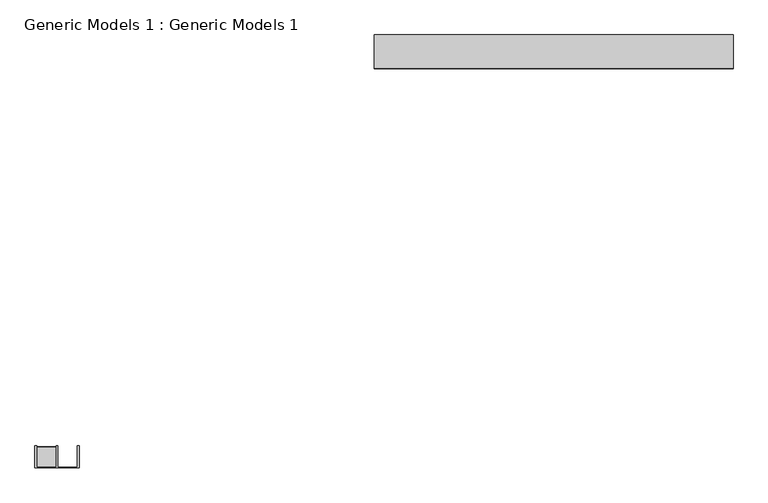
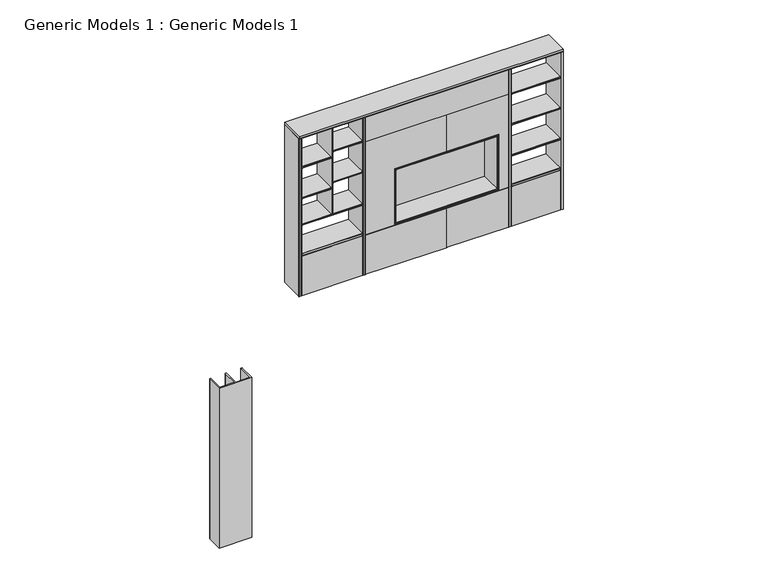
"""IFC4 building model written with IfcOpenShell, lengths in millimetres: proxy geometry, Generic Models 1 : Generic Models 1."""

from ifc_helpers import new_model, si_unit, point, frame, frame_2d, origin, origin_with_axes, place, context, project, spatial, polyline, circle_curve, ellipse_curve, trimmed, segment, composite_curve, outline, extrude, faceted_brep, source, transform, mapped, element, save
from ifc_brep_helpers import plane_surface, cylinder_surface, advanced_brep


def generic_models_1_generic_models_1_d486a0f3(model_context):
    return source(origin(), model_context, "Body", "SolidModel", [
        extrude(outline(composite_curve([segment(trimmed(circle_curve(frame_2d((-3112.6595241, 496.104945)), 2.0), [point((-3112.6595241, 498.104945))], [point((-3110.6595241, 496.104945))], False, "CARTESIAN"), True, "CONTINUOUS"), segment(polyline([(-3110.6595241, 496.104945), (-3110.6595241, 480.104945)]), True, "CONTINUOUS"), segment(trimmed(circle_curve(frame_2d((-3112.6595241, 480.104945)), 2.0), [point((-3110.6595241, 480.104945))], [point((-3112.6595241, 478.104945))], False, "CARTESIAN"), True, "CONTINUOUS"), segment(polyline([(-3112.6595241, 478.104945), (-3175.6595241, 478.104945), (-3175.6595241, 491.104945), (-3260.0144586, 491.104945), (-3260.0144586, 478.104945), (-3340.6595241, 478.104945), (-3340.6595241, 498.104945), (-3112.6595241, 498.104945)]), True, "CONTINUOUS")], self_intersect=False)), frame((-7901.4531836, 0.0, 0.0), z_axis=(1.0, 0.0, 0.0), x_axis=(0.0, 1.0, 0.0)), (0.0, 0.0, 1.0), 220.0053372),
        extrude(outline(polyline([(-7901.4531836, -3260.0144586), (-7901.4531836, -3175.6595241), (-7681.4478465, -3175.6595241), (-7681.4478465, -3260.0144586), (-7901.4531836, -3260.0144586)])), frame((0.0, 0.0, 1144.604945), z_axis=(0.0, 0.0, 1.0), x_axis=(1.0, 0.0, 0.0)), (0.0, 0.0, 1.0), 6.5),
        extrude(outline(composite_curve([segment(trimmed(circle_curve(frame_2d((-3112.6595241, 1156.104945)), 2.0), [point((-3112.6595241, 1158.104945))], [point((-3110.6595241, 1156.104945))], False, "CARTESIAN"), True, "CONTINUOUS"), segment(polyline([(-3110.6595241, 1156.104945), (-3110.6595241, 1140.104945)]), True, "CONTINUOUS"), segment(trimmed(circle_curve(frame_2d((-3112.6595241, 1140.104945)), 2.0), [point((-3110.6595241, 1140.104945))], [point((-3112.6595241, 1138.104945))], False, "CARTESIAN"), True, "CONTINUOUS"), segment(polyline([(-3112.6595241, 1138.104945), (-3175.6595241, 1138.104945), (-3175.6595241, 1151.104945), (-3260.0144586, 1151.104945), (-3260.0144586, 1138.104945), (-3340.6595241, 1138.104945), (-3340.6595241, 1158.104945), (-3112.6595241, 1158.104945)]), True, "CONTINUOUS")], self_intersect=False)), frame((-7901.4531836, 0.0, 0.0), z_axis=(1.0, 0.0, 0.0), x_axis=(0.0, 1.0, 0.0)), (0.0, 0.0, 1.0), 220.0053372),
        extrude(outline(polyline([(-7901.4531836, -3260.0144586), (-7901.4531836, -3175.6595241), (-7681.4478465, -3175.6595241), (-7681.4478465, -3260.0144586), (-7901.4531836, -3260.0144586)])), frame((0.0, 0.0, 1864.604945), z_axis=(0.0, 0.0, 1.0), x_axis=(1.0, 0.0, 0.0)), (0.0, 0.0, 1.0), 6.5),
        extrude(outline(composite_curve([segment(trimmed(circle_curve(frame_2d((-3112.6595241, 1876.104945)), 2.0), [point((-3112.6595241, 1878.104945))], [point((-3110.6595241, 1876.104945))], False, "CARTESIAN"), True, "CONTINUOUS"), segment(polyline([(-3110.6595241, 1876.104945), (-3110.6595241, 1860.104945)]), True, "CONTINUOUS"), segment(trimmed(circle_curve(frame_2d((-3112.6595241, 1860.104945)), 2.0), [point((-3110.6595241, 1860.104945))], [point((-3112.6595241, 1858.104945))], False, "CARTESIAN"), True, "CONTINUOUS"), segment(polyline([(-3112.6595241, 1858.104945), (-3175.6595241, 1858.104945), (-3175.6595241, 1871.104945), (-3260.0144586, 1871.104945), (-3260.0144586, 1858.104945), (-3340.6595241, 1858.104945), (-3340.6595241, 1878.104945), (-3112.6595241, 1878.104945)]), True, "CONTINUOUS")], self_intersect=False)), frame((-7901.4531836, 0.0, 0.0), z_axis=(1.0, 0.0, 0.0), x_axis=(0.0, 1.0, 0.0)), (0.0, 0.0, 1.0), 220.0053372),
        extrude(outline(composite_curve([segment(polyline([(-7439.463858, -3100.6595241), (-7423.4531836, -3100.6595241)]), True, "CONTINUOUS"), segment(trimmed(circle_curve(frame_2d((-7423.4531836, -3102.6595241)), 2.0), [point((-7423.4531836, -3100.6595241))], [point((-7421.4531836, -3102.6595241))], False, "CARTESIAN"), True, "CONTINUOUS"), segment(polyline([(-7421.4531836, -3102.6595241), (-7421.4531836, -3350.6595241), (-7921.4531836, -3350.6595241), (-7921.4531836, -3102.6488498)]), True, "CONTINUOUS"), segment(trimmed(circle_curve(frame_2d((-7919.463858, -3102.6488498)), 1.9893257), [point((-7921.4531836, -3102.6488498))], [point((-7919.463858, -3100.6595241))], False, "CARTESIAN"), True, "CONTINUOUS"), segment(polyline([(-7919.463858, -3100.6595241), (-7903.4531836, -3100.6595241)]), True, "CONTINUOUS"), segment(trimmed(circle_curve(frame_2d((-7903.4531836, -3102.6595241)), 2.0), [point((-7903.4531836, -3100.6595241))], [point((-7901.4531836, -3102.6595241))], False, "CARTESIAN"), True, "CONTINUOUS"), segment(polyline([(-7901.4531836, -3102.6595241), (-7901.4531836, -3340.6595241), (-7681.4478465, -3340.6595241), (-7681.4478465, -3102.6488498)]), True, "CONTINUOUS"), segment(trimmed(circle_curve(frame_2d((-7679.4585208, -3102.6488498)), 1.9893257), [point((-7681.4478465, -3102.6488498))], [point((-7679.4585208, -3100.6595241))], False, "CARTESIAN"), True, "CONTINUOUS"), segment(polyline([(-7679.4585208, -3100.6595241), (-7663.4478465, -3100.6595241)]), True, "CONTINUOUS"), segment(trimmed(circle_curve(frame_2d((-7663.4478465, -3102.6595241)), 2.0), [point((-7663.4478465, -3100.6595241))], [point((-7661.4478465, -3102.6595241))], False, "CARTESIAN"), True, "CONTINUOUS"), segment(polyline([(-7661.4478465, -3102.6595241), (-7661.4478465, -3340.6595241), (-7441.4531836, -3340.6595241), (-7441.4531836, -3102.6488498)]), True, "CONTINUOUS"), segment(trimmed(circle_curve(frame_2d((-7439.463858, -3102.6488498)), 1.9893257), [point((-7441.4531836, -3102.6488498))], [point((-7439.463858, -3100.6595241))], False, "CARTESIAN"), True, "CONTINUOUS")], self_intersect=False)), origin_with_axes(), (0.0, 0.0, 1.0), 2600.0),
        advanced_brep(
        [(-1013.4531836, 1169.3404759, 1558.0), (-1011.4531836, 1171.3404759, 1560.0), (-2611.4531836, 1171.3404759, 1560.0), (-2609.4531836, 1169.3404759, 1558.0), (-1031.4531836, 1171.3404759, 1540.0), (-1029.4531836, 1169.3404759, 1542.0), (-2593.4531836, 1169.3404759, 1542.0), (-2591.4531836, 1171.3404759, 1540.0), (-1031.4531836, 1512.3453695, 1540.0), (-2591.4531836, 1512.3453695, 1540.0), (-1011.4531836, 1512.3453695, 1560.0), (-2611.4531836, 1512.3453695, 1560.0), (-2611.4531836, 1171.3404759, 660.0), (-2609.4531836, 1169.3404759, 662.0), (-2593.4531836, 1169.3404759, 678.0), (-2591.4531836, 1171.3404759, 680.0), (-2591.4531836, 1512.3453695, 680.0), (-2611.4531836, 1512.3453695, 660.0), (-1011.4531836, 1171.3404759, 660.0), (-1013.4531836, 1169.3404759, 662.0), (-1029.4531836, 1169.3404759, 678.0), (-1031.4531836, 1171.3404759, 680.0), (-1031.4531836, 1512.3453695, 680.0), (-1011.4531836, 1512.3453695, 660.0)],
        [
            (0, 1, ellipse_curve(frame((-1013.4531836, 1171.3404759, 1558.0), z_axis=(-0.7071067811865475, 0.0, 0.7071067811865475), x_axis=(0.7071067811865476, 0.0, 0.7071067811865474)), 2.8284271, 2.0)),
            (1, 2),
            (2, 3, ellipse_curve(frame((-2609.4531836, 1171.3404759, 1558.0), z_axis=(0.7071067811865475, 0.0, 0.7071067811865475), x_axis=(0.7071067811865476, 0.0, -0.7071067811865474)), 2.8284271, 2.0)),
            (3, 0),
            (4, 5, ellipse_curve(frame((-1029.4531836, 1171.3404759, 1542.0), z_axis=(-0.7071067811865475, 0.0, 0.7071067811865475), x_axis=(0.7071067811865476, 0.0, 0.7071067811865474)), 2.8284271, 2.0)),
            (5, 6),
            (6, 7, ellipse_curve(frame((-2593.4531836, 1171.3404759, 1542.0), z_axis=(0.7071067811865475, 0.0, 0.7071067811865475), x_axis=(0.7071067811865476, 0.0, -0.7071067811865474)), 2.8284271, 2.0)),
            (7, 4),
            (8, 4),
            (7, 9),
            (9, 8),
            (1, 10),
            (10, 11),
            (11, 2),
            (2, 12),
            (12, 13, ellipse_curve(frame((-2609.4531836, 1171.3404759, 662.0), z_axis=(-0.7071067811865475, 0.0, 0.7071067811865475), x_axis=(0.7071067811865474, 0.0, 0.7071067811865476)), 2.8284271, 2.0)),
            (13, 3),
            (6, 14),
            (14, 15, ellipse_curve(frame((-2593.4531836, 1171.3404759, 678.0), z_axis=(-0.7071067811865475, 0.0, 0.7071067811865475), x_axis=(0.7071067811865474, 0.0, 0.7071067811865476)), 2.8284271, 2.0)),
            (15, 7),
            (15, 16),
            (16, 9),
            (11, 17),
            (17, 12),
            (12, 18),
            (18, 19, ellipse_curve(frame((-1013.4531836, 1171.3404759, 662.0), z_axis=(-0.7071067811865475, 0.0, -0.7071067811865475), x_axis=(-0.7071067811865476, 0.0, 0.7071067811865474)), 2.8284271, 2.0)),
            (19, 13),
            (14, 20),
            (20, 21, ellipse_curve(frame((-1029.4531836, 1171.3404759, 678.0), z_axis=(-0.7071067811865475, 0.0, -0.7071067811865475), x_axis=(-0.7071067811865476, 0.0, 0.7071067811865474)), 2.8284271, 2.0)),
            (21, 15),
            (21, 22),
            (22, 16),
            (17, 23),
            (23, 18),
            (18, 1),
            (0, 19),
            (5, 20),
            (4, 21),
            (8, 22),
            (10, 23),
        ],
        [
            cylinder_surface(frame((-1011.4531836, 1171.3404759, 1558.0), z_axis=(1.0, 0.0, 0.0), x_axis=(0.0, 1.0, 0.0)), 2.0),
            cylinder_surface(frame((-1011.4531836, 1171.3404759, 1542.0), z_axis=(1.0, 0.0, 0.0), x_axis=(0.0, 1.0, 0.0)), 2.0),
            plane_surface(frame((-1031.4531836, 1171.3404759, 1540.0), z_axis=(0.0, 0.0, -1.0), x_axis=(-1.0, 0.0, 0.0))),
            plane_surface(frame((-1011.4531836, 1512.3453695, 1560.0), z_axis=(0.0, 0.0, 1.0), x_axis=(-1.0, 0.0, 0.0))),
            cylinder_surface(frame((-2609.4531836, 1171.3404759, 1560.0), z_axis=(0.0, 0.0, 1.0), x_axis=(0.0, 1.0, 0.0)), 2.0),
            cylinder_surface(frame((-2593.4531836, 1171.3404759, 1560.0), z_axis=(0.0, 0.0, 1.0), x_axis=(0.0, 1.0, 0.0)), 2.0),
            plane_surface(frame((-2591.4531836, 1171.3404759, 1540.0), z_axis=(1.0, 0.0, 0.0), x_axis=(0.0, 0.0, -1.0))),
            plane_surface(frame((-2611.4531836, 1512.3453695, 1560.0), z_axis=(-1.0, 0.0, 0.0), x_axis=(0.0, 0.0, -1.0))),
            cylinder_surface(frame((-2611.4531836, 1171.3404759, 662.0), z_axis=(-1.0, 0.0, 0.0), x_axis=(0.0, 1.0, 0.0)), 2.0),
            cylinder_surface(frame((-2611.4531836, 1171.3404759, 678.0), z_axis=(-1.0, 0.0, 0.0), x_axis=(0.0, 1.0, 0.0)), 2.0),
            plane_surface(frame((-2591.4531836, 1171.3404759, 680.0), z_axis=(0.0, 0.0, 1.0), x_axis=(1.0, 0.0, 0.0))),
            plane_surface(frame((-2611.4531836, 1512.3453695, 660.0), z_axis=(0.0, 0.0, -1.0), x_axis=(1.0, 0.0, 0.0))),
            cylinder_surface(frame((-1013.4531836, 1171.3404759, 660.0), z_axis=(0.0, 0.0, -1.0), x_axis=(0.0, 1.0, 0.0)), 2.0),
            plane_surface(frame((-1013.4531836, 1169.3404759, 662.0), z_axis=(0.0, -1.0, 0.0), x_axis=(0.0, 0.0, 1.0))),
            cylinder_surface(frame((-1029.4531836, 1171.3404759, 660.0), z_axis=(0.0, 0.0, -1.0), x_axis=(0.0, 1.0, 0.0)), 2.0),
            plane_surface(frame((-1031.4531836, 1171.3404759, 680.0), z_axis=(-1.0, 0.0, 0.0), x_axis=(0.0, 0.0, 1.0))),
            plane_surface(frame((-1031.4531836, 1512.3453695, 680.0), z_axis=(0.0, 1.0, 0.0), x_axis=(0.0, 0.0, 1.0))),
            plane_surface(frame((-1011.4531836, 1512.3453695, 660.0), z_axis=(1.0, 0.0, 0.0), x_axis=(0.0, 0.0, 1.0))),
        ],
        [
            (0, [[1, 2, 3, 4]]),
            (1, [[5, 6, 7, 8]]),
            (2, [[9, -8, 10, 11]]),
            (3, [[12, 13, 14, -2]]),
            (4, [[-3, 15, 16, 17]]),
            (5, [[-7, 18, 19, 20]]),
            (6, [[-10, -20, 21, 22]]),
            (7, [[-14, 23, 24, -15]]),
            (8, [[-16, 25, 26, 27]]),
            (9, [[-19, 28, 29, 30]]),
            (10, [[-21, -30, 31, 32]]),
            (11, [[-24, 33, 34, -25]]),
            (12, [[-26, 35, -1, 36]]),
            (13, [[-17, -27, -36, -4], [37, -28, -18, -6]]),
            (14, [[-29, -37, -5, 38]]),
            (15, [[-31, -38, -9, 39]]),
            (16, [[40, -33, -23, -13], [-22, -32, -39, -11]]),
            (17, [[-34, -40, -12, -35]]),
        ],
    ),
        advanced_brep(
        [(-4041.4531836, 1549.3404759, 2560.0), (-4081.4531836, 1549.3404759, 2560.0), (-4081.4531836, 1173.3404759, 2560.0), (-4077.4531836, 1169.3404759, 2560.0), (-4045.4531836, 1169.3404759, 2560.0), (-4041.4531836, 1173.3404759, 2560.0), (-4041.4531836, 1549.3404759, 0.0), (-4041.4531836, 1173.3404759, 0.0), (-4045.4531836, 1169.3404759, 0.0), (-4077.4531836, 1169.3404759, 0.0), (-4081.4531836, 1173.3404759, 0.0), (-4081.4531836, 1549.3404759, 0.0)],
        [
            (0, 1),
            (1, 2),
            (2, 3, circle_curve(frame((-4077.4531836, 1173.3404759, 2560.0), z_axis=(0.0, 0.0, 1.0), x_axis=(1.0, 0.0, 0.0)), 4.0)),
            (3, 4),
            (4, 5, circle_curve(frame((-4045.4531836, 1173.3404759, 2560.0), z_axis=(0.0, 0.0, 1.0), x_axis=(1.0, 0.0, 0.0)), 4.0)),
            (5, 0),
            (6, 7),
            (7, 8, circle_curve(frame((-4045.4531836, 1173.3404759, 0.0), z_axis=(0.0, 0.0, -1.0), x_axis=(1.0, 0.0, 0.0)), 4.0)),
            (8, 9),
            (9, 10, circle_curve(frame((-4077.4531836, 1173.3404759, 0.0), z_axis=(0.0, 0.0, -1.0), x_axis=(1.0, 0.0, 0.0)), 4.0)),
            (10, 11),
            (11, 6),
            (0, 6),
            (11, 1),
            (10, 2),
            (9, 3),
            (8, 4),
            (7, 5),
        ],
        [
            plane_surface(frame((-4081.4531836, 1549.3404759, 2560.0), z_axis=(0.0, 0.0, 1.0), x_axis=(-1.0, 0.0, 0.0))),
            plane_surface(frame((-4081.4531836, 1549.3404759, 0.0), z_axis=(0.0, 0.0, -1.0), x_axis=(1.0, 0.0, 0.0))),
            plane_surface(frame((-4041.4531836, 1549.3404759, 2560.0), z_axis=(0.0, 1.0, 0.0), x_axis=(0.0, 0.0, -1.0))),
            plane_surface(frame((-4081.4531836, 1549.3404759, 2560.0), z_axis=(-1.0, 0.0, 0.0), x_axis=(0.0, 0.0, -1.0))),
            cylinder_surface(frame((-4077.4531836, 1173.3404759, 0.0), z_axis=(0.0, 0.0, 1.0), x_axis=(1.0, 0.0, 0.0)), 4.0),
            plane_surface(frame((-4077.4531836, 1169.3404759, 2560.0), z_axis=(0.0, -1.0, 0.0), x_axis=(0.0, 0.0, -1.0))),
            cylinder_surface(frame((-4045.4531836, 1173.3404759, 0.0), z_axis=(0.0, 0.0, 1.0), x_axis=(1.0, 0.0, 0.0)), 4.0),
            plane_surface(frame((-4041.4531836, 1173.3404759, 2560.0), z_axis=(1.0, 0.0, 0.0), x_axis=(0.0, 0.0, -1.0))),
        ],
        [
            (0, [[1, 2, 3, 4, 5, 6]]),
            (1, [[7, 8, 9, 10, 11, 12]]),
            (2, [[-1, 13, -12, 14]]),
            (3, [[-2, -14, -11, 15]]),
            (4, [[-3, -15, -10, 16]]),
            (5, [[-4, -16, -9, 17]]),
            (6, [[-5, -17, -8, 18]]),
            (7, [[-6, -18, -7, -13]]),
        ],
    ),
        advanced_brep(
        [(-861.4531836, 1549.3404759, 2560.0), (-861.4531836, 1173.3404759, 2560.0), (-857.4531836, 1169.3404759, 2560.0), (-825.4531836, 1169.3404759, 2560.0), (-821.4531836, 1173.3404759, 2560.0), (-821.4531836, 1549.3404759, 2560.0), (-861.4531836, 1549.3404759, 0.0), (-821.4531836, 1549.3404759, 0.0), (-821.4531836, 1173.3404759, 0.0), (-825.4531836, 1169.3404759, 0.0), (-857.4531836, 1169.3404759, 0.0), (-861.4531836, 1173.3404759, 0.0), (-861.4531836, 1173.3404759, 639.6205173), (-861.4531836, 1173.3404759, 644.6205173), (-861.4531836, 1173.3404759, 2155.0), (-861.4531836, 1173.3404759, 2160.0)],
        [
            (0, 1),
            (1, 2, circle_curve(frame((-857.4531836, 1173.3404759, 2560.0), z_axis=(0.0, 0.0, 1.0), x_axis=(1.0, 0.0, 0.0)), 4.0)),
            (2, 3),
            (3, 4, circle_curve(frame((-825.4531836, 1173.3404759, 2560.0), z_axis=(0.0, 0.0, 1.0), x_axis=(1.0, 0.0, 0.0)), 4.0)),
            (4, 5),
            (5, 0),
            (6, 7),
            (7, 8),
            (8, 9, circle_curve(frame((-825.4531836, 1173.3404759, 0.0), z_axis=(0.0, 0.0, -1.0), x_axis=(1.0, 0.0, 0.0)), 4.0)),
            (9, 10),
            (10, 11, circle_curve(frame((-857.4531836, 1173.3404759, 0.0), z_axis=(0.0, 0.0, -1.0), x_axis=(1.0, 0.0, 0.0)), 4.0)),
            (11, 6),
            (0, 6),
            (11, 12),
            (12, 13),
            (13, 14),
            (14, 15),
            (15, 1),
            (10, 2),
            (9, 3),
            (8, 4),
            (7, 5),
        ],
        [
            plane_surface(frame((-4081.4531836, 1549.3404759, 2560.0), z_axis=(0.0, 0.0, 1.0), x_axis=(-1.0, 0.0, 0.0))),
            plane_surface(frame((-4081.4531836, 1549.3404759, 0.0), z_axis=(0.0, 0.0, -1.0), x_axis=(1.0, 0.0, 0.0))),
            plane_surface(frame((-861.4531836, 1549.3404759, 2560.0), z_axis=(-1.0, 0.0, 0.0), x_axis=(0.0, 0.0, -1.0))),
            cylinder_surface(frame((-857.4531836, 1173.3404759, 0.0), z_axis=(0.0, 0.0, 1.0), x_axis=(1.0, 0.0, 0.0)), 4.0),
            plane_surface(frame((-857.4531836, 1169.3404759, 2560.0), z_axis=(0.0, -1.0, 0.0), x_axis=(0.0, 0.0, -1.0))),
            cylinder_surface(frame((-825.4531836, 1173.3404759, 0.0), z_axis=(0.0, 0.0, 1.0), x_axis=(1.0, 0.0, 0.0)), 4.0),
            plane_surface(frame((-821.4531836, 1173.3404759, 2560.0), z_axis=(1.0, 0.0, 0.0), x_axis=(0.0, 0.0, -1.0))),
            plane_surface(frame((-821.4531836, 1549.3404759, 2560.0), z_axis=(0.0, 1.0, 0.0), x_axis=(0.0, 0.0, -1.0))),
        ],
        [
            (0, [[1, 2, 3, 4, 5, 6]]),
            (1, [[7, 8, 9, 10, 11, 12]]),
            (2, [[-1, 13, -12, 14, 15, 16, 17, 18]]),
            (3, [[-2, -18, -17, -16, -15, -14, -11, 19]]),
            (4, [[-3, -19, -10, 20]]),
            (5, [[-4, -20, -9, 21]]),
            (6, [[-5, -21, -8, 22]]),
            (7, [[-6, -22, -7, -13]]),
        ],
    ),
        advanced_brep(
        [(-3061.4531836, 1549.3404759, 2560.0), (-3101.4531836, 1549.3404759, 2560.0), (-3101.4531836, 1173.3404759, 2560.0), (-3097.4531836, 1169.3404759, 2560.0), (-3065.4531836, 1169.3404759, 2560.0), (-3061.4531836, 1173.3404759, 2560.0), (-3061.4531836, 1549.3404759, 0.0), (-3061.4531836, 1173.3404759, 0.0), (-3065.4531836, 1169.3404759, 0.0), (-3097.4531836, 1169.3404759, 0.0), (-3101.4531836, 1173.3404759, 0.0), (-3101.4531836, 1549.3404759, 0.0), (-3061.4531836, 1173.3404759, 639.6205173), (-3061.4531836, 1173.3404759, 644.6205173), (-3061.4531836, 1173.3404759, 2155.0), (-3061.4531836, 1173.3404759, 2160.0)],
        [
            (0, 1),
            (1, 2),
            (2, 3, circle_curve(frame((-3097.4531836, 1173.3404759, 2560.0), z_axis=(0.0, 0.0, 1.0), x_axis=(1.0, 0.0, 0.0)), 4.0)),
            (3, 4),
            (4, 5, circle_curve(frame((-3065.4531836, 1173.3404759, 2560.0), z_axis=(0.0, 0.0, 1.0), x_axis=(1.0, 0.0, 0.0)), 4.0)),
            (5, 0),
            (6, 7),
            (7, 8, circle_curve(frame((-3065.4531836, 1173.3404759, 0.0), z_axis=(0.0, 0.0, -1.0), x_axis=(1.0, 0.0, 0.0)), 4.0)),
            (8, 9),
            (9, 10, circle_curve(frame((-3097.4531836, 1173.3404759, 0.0), z_axis=(0.0, 0.0, -1.0), x_axis=(1.0, 0.0, 0.0)), 4.0)),
            (10, 11),
            (11, 6),
            (0, 6),
            (11, 1),
            (10, 2),
            (9, 3),
            (8, 4),
            (7, 12),
            (12, 13),
            (13, 14),
            (14, 15),
            (15, 5),
        ],
        [
            plane_surface(frame((-4081.4531836, 1549.3404759, 2560.0), z_axis=(0.0, 0.0, 1.0), x_axis=(-1.0, 0.0, 0.0))),
            plane_surface(frame((-4081.4531836, 1549.3404759, 0.0), z_axis=(0.0, 0.0, -1.0), x_axis=(1.0, 0.0, 0.0))),
            plane_surface(frame((-3061.4531836, 1549.3404759, 2560.0), z_axis=(0.0, 1.0, 0.0), x_axis=(0.0, 0.0, -1.0))),
            plane_surface(frame((-3101.4531836, 1549.3404759, 2560.0), z_axis=(-1.0, 0.0, 0.0), x_axis=(0.0, 0.0, -1.0))),
            cylinder_surface(frame((-3097.4531836, 1173.3404759, 0.0), z_axis=(0.0, 0.0, 1.0), x_axis=(1.0, 0.0, 0.0)), 4.0),
            plane_surface(frame((-3097.4531836, 1169.3404759, 2560.0), z_axis=(0.0, -1.0, 0.0), x_axis=(0.0, 0.0, -1.0))),
            cylinder_surface(frame((-3065.4531836, 1173.3404759, 0.0), z_axis=(0.0, 0.0, 1.0), x_axis=(1.0, 0.0, 0.0)), 4.0),
            plane_surface(frame((-3061.4531836, 1173.3404759, 2560.0), z_axis=(1.0, 0.0, 0.0), x_axis=(0.0, 0.0, -1.0))),
        ],
        [
            (0, [[1, 2, 3, 4, 5, 6]]),
            (1, [[7, 8, 9, 10, 11, 12]]),
            (2, [[-1, 13, -12, 14]]),
            (3, [[-2, -14, -11, 15]]),
            (4, [[-3, -15, -10, 16]]),
            (5, [[-4, -16, -9, 17]]),
            (6, [[-5, -17, -8, 18, 19, 20, 21, 22]]),
            (7, [[-6, -22, -21, -20, -19, -18, -7, -13]]),
        ],
    ),
        advanced_brep(
        [(-61.4531836, 1549.3404759, 2560.0), (-61.4531836, 1173.3404759, 2560.0), (-57.4531836, 1169.3404759, 2560.0), (-25.4531836, 1169.3404759, 2560.0), (-21.4531836, 1173.3404759, 2560.0), (-21.4531836, 1549.3404759, 2560.0), (-61.4531836, 1549.3404759, 0.0), (-21.4531836, 1549.3404759, 0.0), (-21.4531836, 1173.3404759, 0.0), (-25.4531836, 1169.3404759, 0.0), (-57.4531836, 1169.3404759, 0.0), (-61.4531836, 1173.3404759, 0.0)],
        [
            (0, 1),
            (1, 2, circle_curve(frame((-57.4531836, 1173.3404759, 2560.0), z_axis=(0.0, 0.0, 1.0), x_axis=(1.0, 0.0, 0.0)), 4.0)),
            (2, 3),
            (3, 4, circle_curve(frame((-25.4531836, 1173.3404759, 2560.0), z_axis=(0.0, 0.0, 1.0), x_axis=(1.0, 0.0, 0.0)), 4.0)),
            (4, 5),
            (5, 0),
            (6, 7),
            (7, 8),
            (8, 9, circle_curve(frame((-25.4531836, 1173.3404759, 0.0), z_axis=(0.0, 0.0, -1.0), x_axis=(1.0, 0.0, 0.0)), 4.0)),
            (9, 10),
            (10, 11, circle_curve(frame((-57.4531836, 1173.3404759, 0.0), z_axis=(0.0, 0.0, -1.0), x_axis=(1.0, 0.0, 0.0)), 4.0)),
            (11, 6),
            (0, 6),
            (11, 1),
            (10, 2),
            (9, 3),
            (8, 4),
            (7, 5),
        ],
        [
            plane_surface(frame((-4081.4531836, 1549.3404759, 2560.0), z_axis=(0.0, 0.0, 1.0), x_axis=(-1.0, 0.0, 0.0))),
            plane_surface(frame((-4081.4531836, 1549.3404759, 0.0), z_axis=(0.0, 0.0, -1.0), x_axis=(1.0, 0.0, 0.0))),
            plane_surface(frame((-61.4531836, 1549.3404759, 2560.0), z_axis=(-1.0, 0.0, 0.0), x_axis=(0.0, 0.0, -1.0))),
            cylinder_surface(frame((-57.4531836, 1173.3404759, 0.0), z_axis=(0.0, 0.0, 1.0), x_axis=(1.0, 0.0, 0.0)), 4.0),
            plane_surface(frame((-57.4531836, 1169.3404759, 2560.0), z_axis=(0.0, -1.0, 0.0), x_axis=(0.0, 0.0, -1.0))),
            cylinder_surface(frame((-25.4531836, 1173.3404759, 0.0), z_axis=(0.0, 0.0, 1.0), x_axis=(1.0, 0.0, 0.0)), 4.0),
            plane_surface(frame((-21.4531836, 1173.3404759, 2560.0), z_axis=(1.0, 0.0, 0.0), x_axis=(0.0, 0.0, -1.0))),
            plane_surface(frame((-21.4531836, 1549.3404759, 2560.0), z_axis=(0.0, 1.0, 0.0), x_axis=(0.0, 0.0, -1.0))),
        ],
        [
            (0, [[1, 2, 3, 4, 5, 6]]),
            (1, [[7, 8, 9, 10, 11, 12]]),
            (2, [[-1, 13, -12, 14]]),
            (3, [[-2, -14, -11, 15]]),
            (4, [[-3, -15, -10, 16]]),
            (5, [[-4, -16, -9, 17]]),
            (6, [[-5, -17, -8, 18]]),
            (7, [[-6, -18, -7, -13]]),
        ],
    ),
        faceted_brep([(-3061.4531836, 1173.3404759, 2560.0), (-861.4531836, 1173.3404759, 2560.0), (-861.4531836, 1549.3404759, 2560.0), (-3061.4531836, 1549.3404759, 2560.0), (-3061.4531836, 1173.3404759, 0.0), (-3061.4531836, 1549.3404759, 0.0), (-861.4531836, 1549.3404759, 0.0), (-861.4531836, 1173.3404759, 0.0), (-1806.4531836, 1173.3404759, 0.0), (-1806.4531836, 1183.3404759, 0.0), (-1811.4531836, 1183.3404759, 0.0), (-1811.4531836, 1173.3404759, 0.0), (-3061.4531836, 1173.3404759, 2160.0), (-861.4531836, 1173.3404759, 2160.0), (-861.4531836, 1173.3404759, 639.6205173), (-1806.4531836, 1173.3404759, 639.6205173), (-1811.4531836, 1173.3404759, 639.6205173), (-3061.4531836, 1173.3404759, 639.6205173), (-1011.4531836, 1173.3404759, 1560.0), (-1011.4531836, 1173.3404759, 660.0), (-1806.4531836, 1173.3404759, 660.0), (-1806.4531836, 1173.3404759, 644.6205173), (-861.4531836, 1173.3404759, 644.6205173), (-861.4531836, 1173.3404759, 2155.0), (-1806.4531836, 1173.3404759, 2155.0), (-1806.4531836, 1173.3404759, 1560.0), (-2611.4531836, 1173.3404759, 660.0), (-2611.4531836, 1173.3404759, 1560.0), (-1811.4531836, 1173.3404759, 1560.0), (-1811.4531836, 1173.3404759, 2155.0), (-3061.4531836, 1173.3404759, 2155.0), (-3061.4531836, 1173.3404759, 644.6205173), (-1811.4531836, 1173.3404759, 644.6205173), (-1811.4531836, 1173.3404759, 660.0), (-861.4531836, 1183.3404759, 2160.0), (-861.4531836, 1183.3404759, 2155.0), (-861.4531836, 1183.3404759, 644.6205173), (-861.4531836, 1183.3404759, 639.6205173), (-3061.4531836, 1183.3404759, 639.6205173), (-3061.4531836, 1183.3404759, 644.6205173), (-3061.4531836, 1183.3404759, 2155.0), (-3061.4531836, 1183.3404759, 2160.0), (-1011.4531836, 1512.3453695, 1560.0), (-2611.4531836, 1512.3453695, 1560.0), (-2611.4531836, 1512.3453695, 660.0), (-1011.4531836, 1512.3453695, 660.0), (-1811.4531836, 1183.3404759, 660.0), (-1806.4531836, 1183.3404759, 660.0), (-1806.4531836, 1183.3404759, 1560.0), (-1811.4531836, 1183.3404759, 1560.0), (-1811.4531836, 1183.3404759, 2155.0), (-1806.4531836, 1183.3404759, 2155.0), (-1811.4531836, 1183.3404759, 644.6205173), (-1811.4531836, 1183.3404759, 639.6205173), (-1806.4531836, 1183.3404759, 639.6205173), (-1806.4531836, 1183.3404759, 644.6205173)], [[[0, 1, 2, 3]], [[4, 5, 6, 7, 8, 9, 10, 11]], [[1, 0, 12, 13]], [[8, 7, 14, 15]], [[4, 11, 16, 17]], [[18, 19, 20, 21, 22, 23, 24, 25]], [[26, 27, 28, 29, 30, 31, 32, 33]], [[2, 1, 13, 34, 35, 23, 22, 36, 37, 14, 7, 6]], [[3, 2, 6, 5]], [[0, 3, 5, 4, 17, 38, 39, 31, 30, 40, 41, 12]], [[42, 43, 44, 45]], [[42, 45, 19, 18]], [[45, 44, 26, 33, 46, 47, 20, 19]], [[44, 43, 27, 26]], [[43, 42, 18, 25, 48, 49, 28, 27]], [[34, 41, 40, 50, 49, 48, 51, 35]], [[52, 39, 38, 53, 10, 9, 54, 37, 36, 55, 47, 46]], [[35, 51, 24, 23]], [[24, 51, 48, 25]], [[55, 21, 20, 47]], [[55, 36, 22, 21]], [[37, 54, 15, 14]], [[53, 38, 17, 16]], [[39, 52, 32, 31]], [[32, 52, 46, 33]], [[50, 29, 28, 49]], [[50, 40, 30, 29]], [[41, 34, 13, 12]], [[54, 9, 8, 15]], [[10, 53, 16, 11]]]),
        extrude(outline(polyline([(-4041.4531836, 1173.3404759), (-4041.4531836, 1549.3404759), (-3101.4531836, 1549.3404759), (-3101.4531836, 1173.3404759), (-4041.4531836, 1173.3404759)])), origin_with_axes(), (0.0, 0.0, 1.0), 640.0),
        extrude(outline(polyline([(-61.4531836, 1173.3404759), (-821.4531836, 1173.3404759), (-821.4531836, 1549.3404759), (-61.4531836, 1549.3404759), (-61.4531836, 1173.3404759)])), origin_with_axes(), (0.0, 0.0, 1.0), 640.0),
        extrude(outline(composite_curve([segment(polyline([(1177.3404759, 680.0), (1549.3404759, 680.0), (1549.3404759, 640.0), (1177.3404759, 640.0)]), True, "CONTINUOUS"), segment(trimmed(circle_curve(frame_2d((1177.3404759, 644.0)), 4.0), [point((1177.3404759, 640.0))], [point((1173.3404759, 644.0))], False, "CARTESIAN"), True, "CONTINUOUS"), segment(polyline([(1173.3404759, 644.0), (1173.3404759, 676.0)]), True, "CONTINUOUS"), segment(trimmed(circle_curve(frame_2d((1177.3404759, 676.0)), 4.0), [point((1173.3404759, 676.0))], [point((1177.3404759, 680.0))], False, "CARTESIAN"), True, "CONTINUOUS")], self_intersect=False)), frame((-821.4531836, 0.0, 0.0), z_axis=(1.0, 0.0, 0.0), x_axis=(0.0, 1.0, 0.0)), (0.0, 0.0, 1.0), 760.0),
        extrude(outline(polyline([(-3561.4531836, 1298.5026958), (-3561.4531836, 1398.5026958), (-3101.4531836, 1398.5026958), (-3101.4531836, 1298.5026958), (-3561.4531836, 1298.5026958)])), frame((0.0, 0.0, 1669.6369507), z_axis=(0.0, 0.0, 1.0), x_axis=(1.0, 0.0, 0.0)), (0.0, 0.0, 1.0), 5.0),
        extrude(outline(composite_curve([segment(polyline([(1175.1842259, 1684.6369507), (1549.3404759, 1684.6369507), (1549.3404759, 1664.6369507), (1398.5026958, 1664.6369507), (1398.5026958, 1674.6369507), (1298.5026958, 1674.6369507), (1298.5026958, 1664.6369507), (1175.1842259, 1664.6369507)]), True, "CONTINUOUS"), segment(trimmed(circle_curve(frame_2d((1175.1842259, 1666.6369507)), 2.0), [point((1175.1842259, 1664.6369507))], [point((1173.1842259, 1666.6369507))], False, "CARTESIAN"), True, "CONTINUOUS"), segment(polyline([(1173.1842259, 1666.6369507), (1173.1842259, 1682.6369507)]), True, "CONTINUOUS"), segment(trimmed(circle_curve(frame_2d((1175.1842259, 1682.6369507)), 2.0), [point((1173.1842259, 1682.6369507))], [point((1175.1842259, 1684.6369507))], False, "CARTESIAN"), True, "CONTINUOUS")], self_intersect=False)), frame((-3561.4531836, 0.0, 0.0), z_axis=(1.0, 0.0, 0.0), x_axis=(0.0, 1.0, 0.0)), (0.0, 0.0, 1.0), 460.0),
        extrude(outline(polyline([(-3561.4531836, 1298.5026958), (-3561.4531836, 1398.5026958), (-3101.4531836, 1398.5026958), (-3101.4531836, 1298.5026958), (-3561.4531836, 1298.5026958)])), frame((0.0, 0.0, 2169.6369507), z_axis=(0.0, 0.0, 1.0), x_axis=(1.0, 0.0, 0.0)), (0.0, 0.0, 1.0), 5.0),
        extrude(outline(composite_curve([segment(polyline([(1175.1842259, 2184.6369507), (1549.3404759, 2184.6369507), (1549.3404759, 2164.6369507), (1398.5026958, 2164.6369507), (1398.5026958, 2174.6369507), (1298.5026958, 2174.6369507), (1298.5026958, 2164.6369507), (1175.1842259, 2164.6369507)]), True, "CONTINUOUS"), segment(trimmed(circle_curve(frame_2d((1175.1842259, 2166.6369507)), 2.0), [point((1175.1842259, 2164.6369507))], [point((1173.1842259, 2166.6369507))], False, "CARTESIAN"), True, "CONTINUOUS"), segment(polyline([(1173.1842259, 2166.6369507), (1173.1842259, 2182.6369507)]), True, "CONTINUOUS"), segment(trimmed(circle_curve(frame_2d((1175.1842259, 2182.6369507)), 2.0), [point((1173.1842259, 2182.6369507))], [point((1175.1842259, 2184.6369507))], False, "CARTESIAN"), True, "CONTINUOUS")], self_intersect=False)), frame((-3561.4531836, 0.0, 0.0), z_axis=(1.0, 0.0, 0.0), x_axis=(0.0, 1.0, 0.0)), (0.0, 0.0, 1.0), 460.0),
        extrude(outline(composite_curve([segment(polyline([(-3561.4531836, 1549.3404759), (-3561.4531836, 1171.3404759)]), True, "CONTINUOUS"), segment(trimmed(circle_curve(frame_2d((-3563.4531836, 1171.3404759)), 2.0), [point((-3561.4531836, 1171.3404759))], [point((-3563.4531836, 1169.3404759))], False, "CARTESIAN"), True, "CONTINUOUS"), segment(polyline([(-3563.4531836, 1169.3404759), (-3579.4531836, 1169.3404759)]), True, "CONTINUOUS"), segment(trimmed(circle_curve(frame_2d((-3579.4531836, 1171.3404759)), 2.0), [point((-3579.4531836, 1169.3404759))], [point((-3581.4531836, 1171.3404759))], False, "CARTESIAN"), True, "CONTINUOUS"), segment(polyline([(-3581.4531836, 1171.3404759), (-3581.4531836, 1549.3404759), (-3561.4531836, 1549.3404759)]), True, "CONTINUOUS")], self_intersect=False)), frame((0.0, 0.0, 1160.0), z_axis=(0.0, 0.0, 1.0), x_axis=(1.0, 0.0, 0.0)), (0.0, 0.0, 1.0), 1400.0),
        extrude(outline(composite_curve([segment(polyline([(1177.3404759, 680.0), (1549.3404759, 680.0), (1549.3404759, 640.0), (1177.3404759, 640.0)]), True, "CONTINUOUS"), segment(trimmed(circle_curve(frame_2d((1177.3404759, 644.0)), 4.0), [point((1177.3404759, 640.0))], [point((1173.3404759, 644.0))], False, "CARTESIAN"), True, "CONTINUOUS"), segment(polyline([(1173.3404759, 644.0), (1173.3404759, 676.0)]), True, "CONTINUOUS"), segment(trimmed(circle_curve(frame_2d((1177.3404759, 676.0)), 4.0), [point((1173.3404759, 676.0))], [point((1177.3404759, 680.0))], False, "CARTESIAN"), True, "CONTINUOUS")], self_intersect=False)), frame((-4041.4531836, 0.0, 0.0), z_axis=(1.0, 0.0, 0.0), x_axis=(0.0, 1.0, 0.0)), (0.0, 0.0, 1.0), 940.0),
        extrude(outline(polyline([(-4041.4531836, 1298.5026958), (-4041.4531836, 1398.5026958), (-3101.4531836, 1398.5026958), (-3101.4531836, 1298.5026958), (-4041.4531836, 1298.5026958)])), frame((0.0, 0.0, 1145.0), z_axis=(0.0, 0.0, 1.0), x_axis=(1.0, 0.0, 0.0)), (0.0, 0.0, 1.0), 5.0),
        extrude(outline(composite_curve([segment(polyline([(1175.1842259, 1160.0), (1549.3404759, 1160.0), (1549.3404759, 1140.0), (1398.5026958, 1140.0), (1398.5026958, 1150.0), (1298.5026958, 1150.0), (1298.5026958, 1140.0), (1175.1842259, 1140.0)]), True, "CONTINUOUS"), segment(trimmed(circle_curve(frame_2d((1175.1842259, 1142.0)), 2.0), [point((1175.1842259, 1140.0))], [point((1173.1842259, 1142.0))], False, "CARTESIAN"), True, "CONTINUOUS"), segment(polyline([(1173.1842259, 1142.0), (1173.1842259, 1158.0)]), True, "CONTINUOUS"), segment(trimmed(circle_curve(frame_2d((1175.1842259, 1158.0)), 2.0), [point((1173.1842259, 1158.0))], [point((1175.1842259, 1160.0))], False, "CARTESIAN"), True, "CONTINUOUS")], self_intersect=False)), frame((-4041.4531836, 0.0, 0.0), z_axis=(1.0, 0.0, 0.0), x_axis=(0.0, 1.0, 0.0)), (0.0, 0.0, 1.0), 940.0),
        extrude(outline(polyline([(-4041.4531836, 1298.5026958), (-4041.4531836, 1398.5026958), (-3581.4531836, 1398.5026958), (-3581.4531836, 1298.5026958), (-4041.4531836, 1298.5026958)])), frame((0.0, 0.0, 1575.0), z_axis=(0.0, 0.0, 1.0), x_axis=(1.0, 0.0, 0.0)), (0.0, 0.0, 1.0), 5.0),
        extrude(outline(composite_curve([segment(polyline([(1175.1842259, 1590.0), (1549.3404759, 1590.0), (1549.3404759, 1570.0), (1398.5026958, 1570.0), (1398.5026958, 1580.0), (1298.5026958, 1580.0), (1298.5026958, 1570.0), (1175.1842259, 1570.0)]), True, "CONTINUOUS"), segment(trimmed(circle_curve(frame_2d((1175.1842259, 1572.0)), 2.0), [point((1175.1842259, 1570.0))], [point((1173.1842259, 1572.0))], False, "CARTESIAN"), True, "CONTINUOUS"), segment(polyline([(1173.1842259, 1572.0), (1173.1842259, 1588.0)]), True, "CONTINUOUS"), segment(trimmed(circle_curve(frame_2d((1175.1842259, 1588.0)), 2.0), [point((1173.1842259, 1588.0))], [point((1175.1842259, 1590.0))], False, "CARTESIAN"), True, "CONTINUOUS")], self_intersect=False)), frame((-4041.4531836, 0.0, 0.0), z_axis=(1.0, 0.0, 0.0), x_axis=(0.0, 1.0, 0.0)), (0.0, 0.0, 1.0), 460.0),
        extrude(outline(polyline([(-4041.4531836, 1298.5026958), (-4041.4531836, 1398.5026958), (-3581.4531836, 1398.5026958), (-3581.4531836, 1298.5026958), (-4041.4531836, 1298.5026958)])), frame((0.0, 0.0, 2075.0), z_axis=(0.0, 0.0, 1.0), x_axis=(1.0, 0.0, 0.0)), (0.0, 0.0, 1.0), 5.0),
        extrude(outline(composite_curve([segment(polyline([(1175.1842259, 2090.0), (1549.3404759, 2090.0), (1549.3404759, 2070.0), (1398.5026958, 2070.0), (1398.5026958, 2080.0), (1298.5026958, 2080.0), (1298.5026958, 2070.0), (1175.1842259, 2070.0)]), True, "CONTINUOUS"), segment(trimmed(circle_curve(frame_2d((1175.1842259, 2072.0)), 2.0), [point((1175.1842259, 2070.0))], [point((1173.1842259, 2072.0))], False, "CARTESIAN"), True, "CONTINUOUS"), segment(polyline([(1173.1842259, 2072.0), (1173.1842259, 2088.0)]), True, "CONTINUOUS"), segment(trimmed(circle_curve(frame_2d((1175.1842259, 2088.0)), 2.0), [point((1173.1842259, 2088.0))], [point((1175.1842259, 2090.0))], False, "CARTESIAN"), True, "CONTINUOUS")], self_intersect=False)), frame((-4041.4531836, 0.0, 0.0), z_axis=(1.0, 0.0, 0.0), x_axis=(0.0, 1.0, 0.0)), (0.0, 0.0, 1.0), 460.0),
        extrude(outline(polyline([(-821.4531836, 1298.5026958), (-821.4531836, 1398.5026958), (-61.4531836, 1398.5026958), (-61.4531836, 1298.5026958), (-821.4531836, 1298.5026958)])), frame((0.0, 0.0, 1145.0), z_axis=(0.0, 0.0, 1.0), x_axis=(1.0, 0.0, 0.0)), (0.0, 0.0, 1.0), 5.0),
        extrude(outline(composite_curve([segment(polyline([(1175.1842259, 1160.0), (1549.3404759, 1160.0), (1549.3404759, 1140.0), (1398.5026958, 1140.0), (1398.5026958, 1150.0), (1298.5026958, 1150.0), (1298.5026958, 1140.0), (1175.1842259, 1140.0)]), True, "CONTINUOUS"), segment(trimmed(circle_curve(frame_2d((1175.1842259, 1142.0)), 2.0), [point((1175.1842259, 1140.0))], [point((1173.1842259, 1142.0))], False, "CARTESIAN"), True, "CONTINUOUS"), segment(polyline([(1173.1842259, 1142.0), (1173.1842259, 1158.0)]), True, "CONTINUOUS"), segment(trimmed(circle_curve(frame_2d((1175.1842259, 1158.0)), 2.0), [point((1173.1842259, 1158.0))], [point((1175.1842259, 1160.0))], False, "CARTESIAN"), True, "CONTINUOUS")], self_intersect=False)), frame((-821.4531836, 0.0, 0.0), z_axis=(1.0, 0.0, 0.0), x_axis=(0.0, 1.0, 0.0)), (0.0, 0.0, 1.0), 760.0),
        extrude(outline(polyline([(-821.4531836, 1298.5026958), (-821.4531836, 1398.5026958), (-61.4531836, 1398.5026958), (-61.4531836, 1298.5026958), (-821.4531836, 1298.5026958)])), frame((0.0, 0.0, 1645.0), z_axis=(0.0, 0.0, 1.0), x_axis=(1.0, 0.0, 0.0)), (0.0, 0.0, 1.0), 5.0),
        extrude(outline(composite_curve([segment(polyline([(1175.1842259, 1660.0), (1549.3404759, 1660.0), (1549.3404759, 1640.0), (1398.5026958, 1640.0), (1398.5026958, 1650.0), (1298.5026958, 1650.0), (1298.5026958, 1640.0), (1175.1842259, 1640.0)]), True, "CONTINUOUS"), segment(trimmed(circle_curve(frame_2d((1175.1842259, 1642.0)), 2.0), [point((1175.1842259, 1640.0))], [point((1173.1842259, 1642.0))], False, "CARTESIAN"), True, "CONTINUOUS"), segment(polyline([(1173.1842259, 1642.0), (1173.1842259, 1658.0)]), True, "CONTINUOUS"), segment(trimmed(circle_curve(frame_2d((1175.1842259, 1658.0)), 2.0), [point((1173.1842259, 1658.0))], [point((1175.1842259, 1660.0))], False, "CARTESIAN"), True, "CONTINUOUS")], self_intersect=False)), frame((-821.4531836, 0.0, 0.0), z_axis=(1.0, 0.0, 0.0), x_axis=(0.0, 1.0, 0.0)), (0.0, 0.0, 1.0), 760.0),
        extrude(outline(polyline([(-821.4531836, 1298.5026958), (-821.4531836, 1398.5026958), (-61.4531836, 1398.5026958), (-61.4531836, 1298.5026958), (-821.4531836, 1298.5026958)])), frame((0.0, 0.0, 2145.0), z_axis=(0.0, 0.0, 1.0), x_axis=(1.0, 0.0, 0.0)), (0.0, 0.0, 1.0), 5.0),
        extrude(outline(composite_curve([segment(polyline([(1175.1842259, 2160.0), (1549.3404759, 2160.0), (1549.3404759, 2140.0), (1398.5026958, 2140.0), (1398.5026958, 2150.0), (1298.5026958, 2150.0), (1298.5026958, 2140.0), (1175.1842259, 2140.0)]), True, "CONTINUOUS"), segment(trimmed(circle_curve(frame_2d((1175.1842259, 2142.0)), 2.0), [point((1175.1842259, 2140.0))], [point((1173.1842259, 2142.0))], False, "CARTESIAN"), True, "CONTINUOUS"), segment(polyline([(1173.1842259, 2142.0), (1173.1842259, 2158.0)]), True, "CONTINUOUS"), segment(trimmed(circle_curve(frame_2d((1175.1842259, 2158.0)), 2.0), [point((1173.1842259, 2158.0))], [point((1175.1842259, 2160.0))], False, "CARTESIAN"), True, "CONTINUOUS")], self_intersect=False)), frame((-821.4531836, 0.0, 0.0), z_axis=(1.0, 0.0, 0.0), x_axis=(0.0, 1.0, 0.0)), (0.0, 0.0, 1.0), 760.0),
        extrude(outline(composite_curve([segment(polyline([(1169.3404759, 2600.0), (1549.3404759, 2600.0), (1549.3404759, 2560.0), (1169.3404759, 2560.0)]), True, "CONTINUOUS"), segment(trimmed(circle_curve(frame_2d((1169.3404759, 2564.0)), 4.0), [point((1169.3404759, 2560.0))], [point((1165.3404759, 2564.0))], False, "CARTESIAN"), True, "CONTINUOUS"), segment(polyline([(1165.3404759, 2564.0), (1165.3404759, 2596.0)]), True, "CONTINUOUS"), segment(trimmed(circle_curve(frame_2d((1169.3404759, 2596.0)), 4.0), [point((1165.3404759, 2596.0))], [point((1169.3404759, 2600.0))], False, "CARTESIAN"), True, "CONTINUOUS")], self_intersect=False)), frame((-4081.4531836, 0.0, 0.0), z_axis=(1.0, 0.0, 0.0), x_axis=(0.0, 1.0, 0.0)), (0.0, 0.0, 1.0), 4060.0),
    ])


if __name__ == "__main__":
    model = new_model("IFC4")
    model_context = context("Model", 3, world=origin())
    ifc_project = project(units=[si_unit("LENGTHUNIT", "METRE", prefix="MILLI")], contexts=[model_context])
    site = spatial("IfcSite", under=ifc_project)
    building = spatial("IfcBuilding", under=site)
    placement = place(None, origin())
    generic_models_1_generic_models_1_shape = generic_models_1_generic_models_1_d486a0f3(model_context)
    element("IfcBuildingElementProxy", 1, Name="Generic Models 1 : Generic Models 1", ObjectType="Generic Models 1 : Generic Models 1", at=placement, inside=building, context=model_context, shape_type="MappedRepresentation", body=[
        mapped(generic_models_1_generic_models_1_shape, transform((0.0, 0.0, 0.0), x_axis=(1.0, 0.0, 0.0), y_axis=(0.0, 1.0, 0.0), z_axis=(0.0, 0.0, 1.0))),
    ])
    save(model, "model.ifc")
